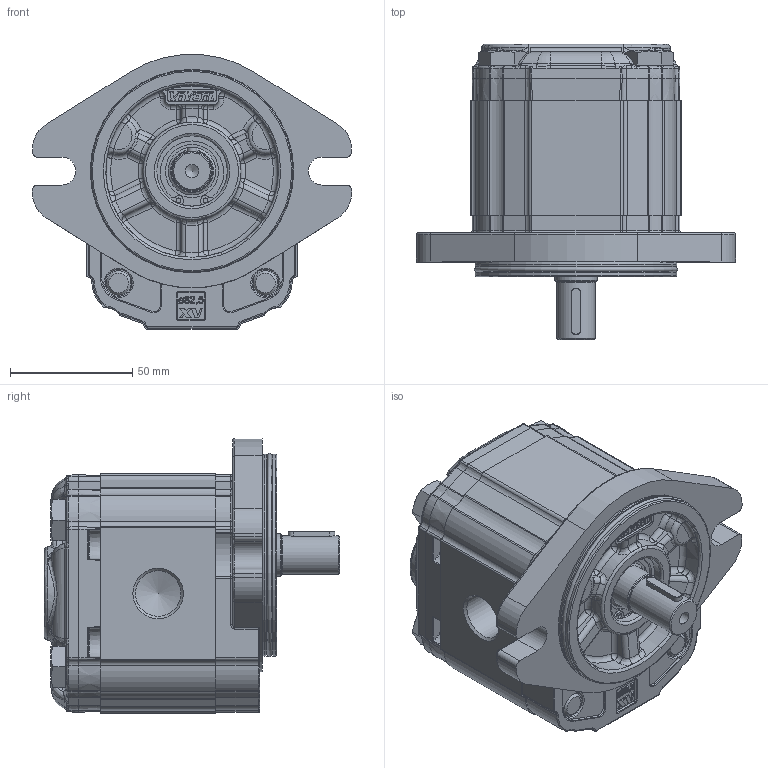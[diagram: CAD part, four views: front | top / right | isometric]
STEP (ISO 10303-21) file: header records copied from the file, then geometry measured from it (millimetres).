
FILE_DESCRIPTION(/* description */ ('Unknown'),/* implementation_level */ '2;1');
FILE_NAME(/* name */ 'X2P4152BBBA',/* time_stamp */ '2021-07-16T13:47:16+02:00',/* author */ ('Unknown'),/* organization */ ('Unknown'),/* preprocessor_version */ 'ST-DEVELOPER v16.7',/* originating_system */ 'Solid Edge',/* authorisation */ 'Unknown');
FILE_SCHEMA (('AUTOMOTIVE_DESIGN {1 0 10303 214 3 1 1}'));
Products named in the file (5): X2P4152BBBA; X2P52; 2B; X2BBH47; XP219-A
Assembly tree (4 placements, depth 2):
  X2P4152BBBA
    X2P52
    2B
    X2BBH47
    XP219-A
Bounding box: 130.38 x 120.7 x 112.3 mm (x, y, z)
Volume: 677649.4 mm3; surface area: 102626.3 mm2
Topology: 4 solids, 6 shells, 2083 faces, 5105 edges, 3093 vertices
Faces by surface type: cylinder 619, plane 573, bspline 537, torus 243, cone 73, sphere 38
Full cylindrical faces by diameter (mm): 2 x2, 5.367 x1, 10 x4, 10.5 x4, 11 x2, 15.875 x1, 16 x4, 17.42 x1, 17.48 x2, 18.631 x1, 18.724 x1, 19 x1, 20.595 x1, 21.741 x1, 25.834 x1, 28.56 x1, 28.57 x1, 28.8 x1, 30.4 x1, 79.6 x2, 82.5 x2
Entity records: 88508 total; most frequent: CARTESIAN_POINT 29273, ORIENTED_EDGE 9858, DIRECTION 8227, EDGE_CURVE 4929, AXIS2_PLACEMENT_3D 3098, VERTEX_POINT 3042, FACE_BOUND 2271, EDGE_LOOP 2267
